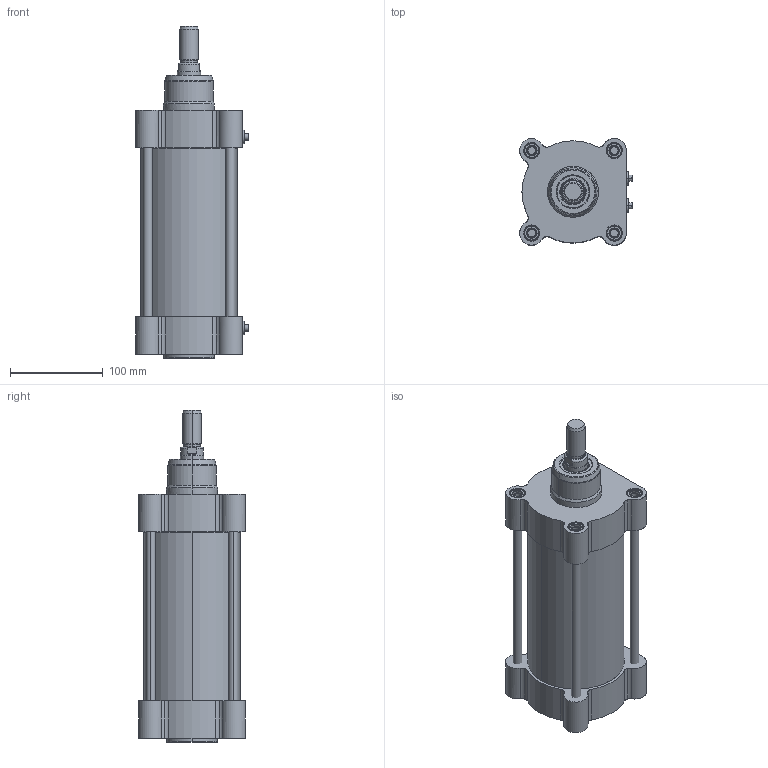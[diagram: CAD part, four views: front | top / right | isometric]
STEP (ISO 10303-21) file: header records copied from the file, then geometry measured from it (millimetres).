
FILE_DESCRIPTION (( 'STEP AP203' ), '1' );
FILE_NAME ('CTMI100-125.STEP', '2020-03-27T10:01:56', ( '' ), ( '' ), 'SwSTEP 2.0', 'SolidWorks 2019', '' );
FILE_SCHEMA (( 'CONFIG_CONTROL_DESIGN' ));
Length unit declared in the file: millimetre
Products named in the file (1): CTMI100-125
Bounding box: 121.5 x 115 x 358 mm (x, y, z)
Surface area: 305964.7 mm2 (no closed solid volume)
Topology: 0 solids, 20 shells, 706 faces, 1641 edges, 1016 vertices
Faces by surface type: cone 216, cylinder 201, plane 193, torus 80, bspline 16
Entity records: 32585 total; most frequent: CARTESIAN_POINT 18829, ORIENTED_EDGE 3244, DIRECTION 2039, EDGE_CURVE 1641, B_SPLINE_CURVE_WITH_KNOTS 1097, VERTEX_POINT 1016, AXIS2_PLACEMENT_3D 855, EDGE_LOOP 773
